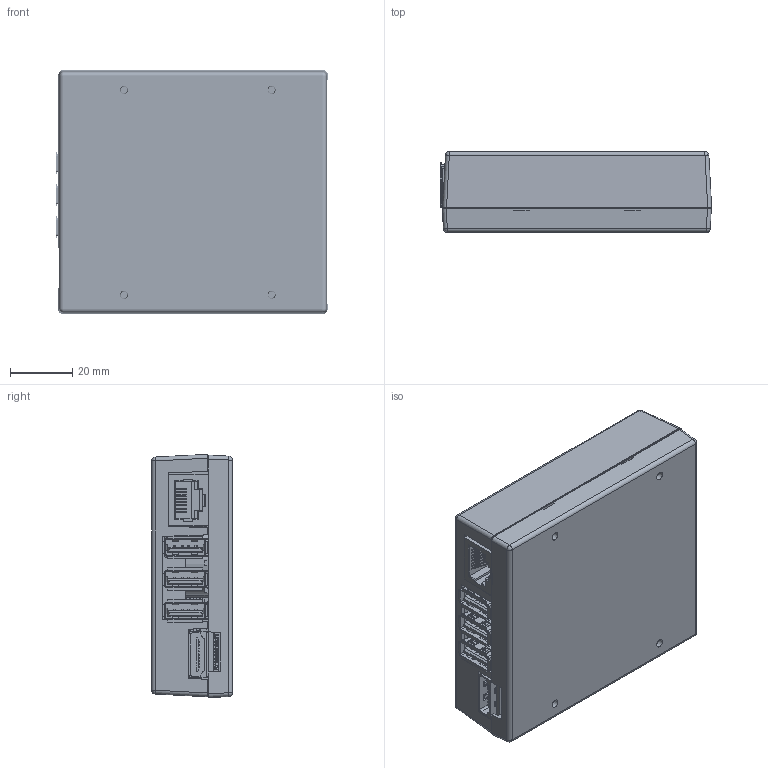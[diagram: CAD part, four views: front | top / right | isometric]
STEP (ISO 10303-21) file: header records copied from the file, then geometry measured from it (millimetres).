
FILE_DESCRIPTION(/* description */ ('Alibre Inc.'),/* implementation_level */ '2;1');
FILE_NAME(/* name */ 'export0',/* time_stamp */ '2017-09-14T14:10:37-06:00',/* author */ (''),/* organization */ (''),/* preprocessor_version */ 'ST-DEVELOPER v14',/* originating_system */ 'Alibre',/* authorisation */ '');
FILE_SCHEMA (('CONFIG_CONTROL_DESIGN'));
Products named in the file (427): ID_1; ID_2; ID_3; ID_4; ID_5; ID_6; ID_7; ID_8; ID_9; ID_10; ID_11; ID_12; ID_13; ID_14; ID_15; ID_16; ID_17; ID_18; ID_19; ID_20; ID_21; ID_22; ID_23; ID_24; ID_25; ID_26; ID_27; ID_28; ID_29; ID_30; ID_31; ID_32; ID_33; ID_34; ID_35; ID_36; ID_37; ID_38; ID_39; ID_40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
Bounding box: 87.44 x 26.04 x 78.48 mm (x, y, z)
Volume: 60836.5 mm3; surface area: 80181 mm2
Topology: 596 solids, 596 shells, 9564 faces, 24170 edges, 15752 vertices
Faces by surface type: plane 7334, cylinder 1372, bspline 618, sphere 200, cone 26, torus 14
Full cylindrical faces by diameter (mm): 0.254 x4, 0.381 x1, 0.9 x12, 0.92 x12, 0.965 x18, 1 x4, 1.067 x4, 1.3 x2, 1.35 x12, 1.5 x2, 1.6 x3, 1.7 x2, 1.905 x27, 3.175 x4, 3.25 x2, 22 x1
Entity records: 220689 total; most frequent: CARTESIAN_POINT 47026, ORIENTED_EDGE 25494, DIRECTION 22290, EDGE_CURVE 12747, VECTOR 8932, LINE 8932, VERTEX_POINT 8377, AXIS2_PLACEMENT_3D 8149
